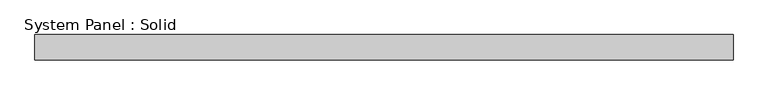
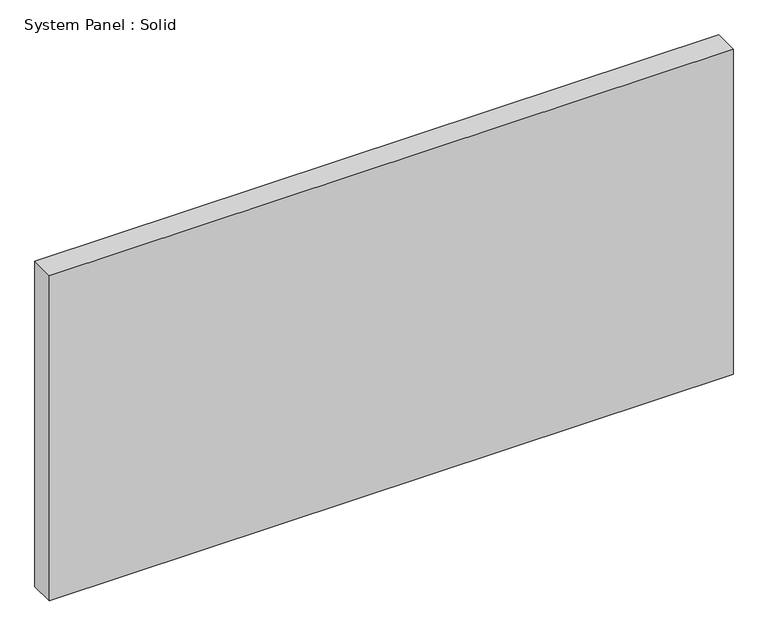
"""IFC4 building model written with IfcOpenShell, lengths in millimetres: plate geometry, System Panel : Solid."""

from ifc_helpers import new_model, si_unit, origin, origin_with_axes, place, context, project, spatial, polyline, outline, extrude, source, transform, mapped, element, save


def system_panel_solid_14d17a46(model_context):
    return source(origin(), model_context, "Body", "SweptSolid", [
        extrude(outline(polyline([(868.2793088, -19.05), (-868.2793088, -19.05), (-868.2793088, 44.45), (868.2793088, 44.45), (868.2793088, -19.05)])), origin_with_axes(), (0.0, 0.0, 1.0), 873.1346896),
    ])


if __name__ == "__main__":
    model = new_model("IFC4")
    model_context = context("Model", 3, world=origin())
    ifc_project = project(units=[si_unit("LENGTHUNIT", "METRE", prefix="MILLI")], contexts=[model_context])
    site = spatial("IfcSite", under=ifc_project)
    building = spatial("IfcBuilding", under=site)
    placement = place(None, origin())
    system_panel_solid_shape = system_panel_solid_14d17a46(model_context)
    element("IfcPlate", 1, ObjectType="System Panel : Solid", at=placement, inside=building, context=model_context, shape_type="MappedRepresentation", body=[
        mapped(system_panel_solid_shape, transform((0.0, 0.0, 0.0), x_axis=(1.0, 0.0, 0.0), y_axis=(0.0, 1.0, 0.0), z_axis=(0.0, 0.0, 1.0))),
    ])
    save(model, "model.ifc")
